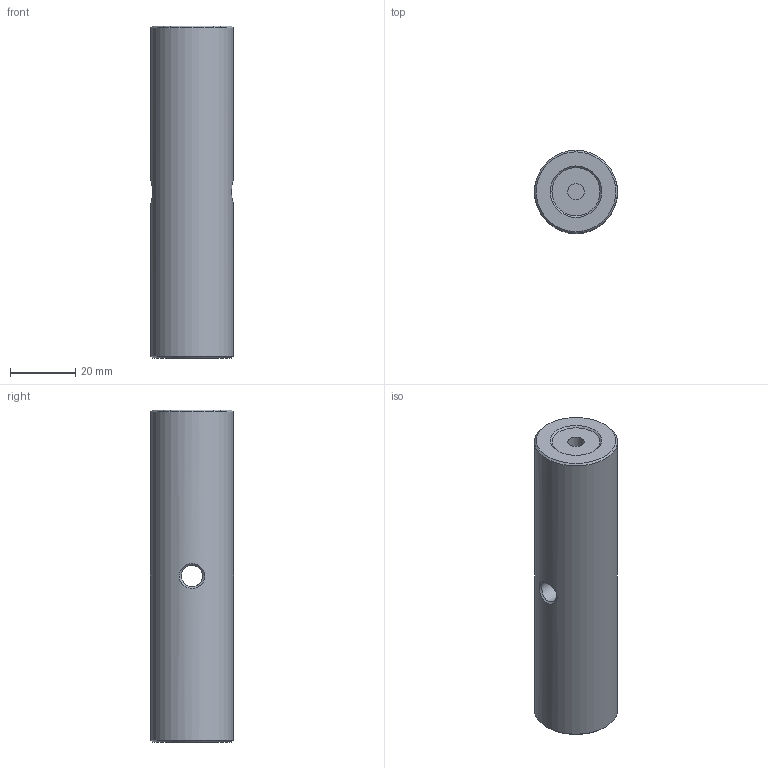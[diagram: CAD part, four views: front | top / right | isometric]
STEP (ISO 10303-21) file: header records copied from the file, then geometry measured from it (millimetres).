
FILE_DESCRIPTION(/* description */ ('Alibre Inc.'),/* implementation_level */ '2;1');
FILE_NAME(/* name */ 'export0',/* time_stamp */ '2014-02-03T22:18:49-05:00',/* author */ (''),/* organization */ (''),/* preprocessor_version */ 'ST-DEVELOPER v14',/* originating_system */ 'Alibre',/* authorisation */ '');
FILE_SCHEMA (('CONFIG_CONTROL_DESIGN'));
Length unit declared in the file: centimetre
Products named in the file (1): ID_1
Bounding box: 25.4 x 25.4 x 101.6 mm (x, y, z)
Volume: 49436.2 mm3; surface area: 10315.5 mm2
Topology: 1 solids, 1 shells, 16 faces, 29 edges, 18 vertices
Faces by surface type: plane 6, cone 4, cylinder 4, bspline 2
Full cylindrical faces by diameter (mm): 4.978 x2, 6.528 x1, 25.4 x1
Entity records: 1065 total; most frequent: CARTESIAN_POINT 716, DIRECTION 48, ORIENTED_EDGE 36, EDGE_LOOP 30, FACE_BOUND 30, AXIS2_PLACEMENT_3D 26, EDGE_CURVE 18, VERTEX_POINT 16
